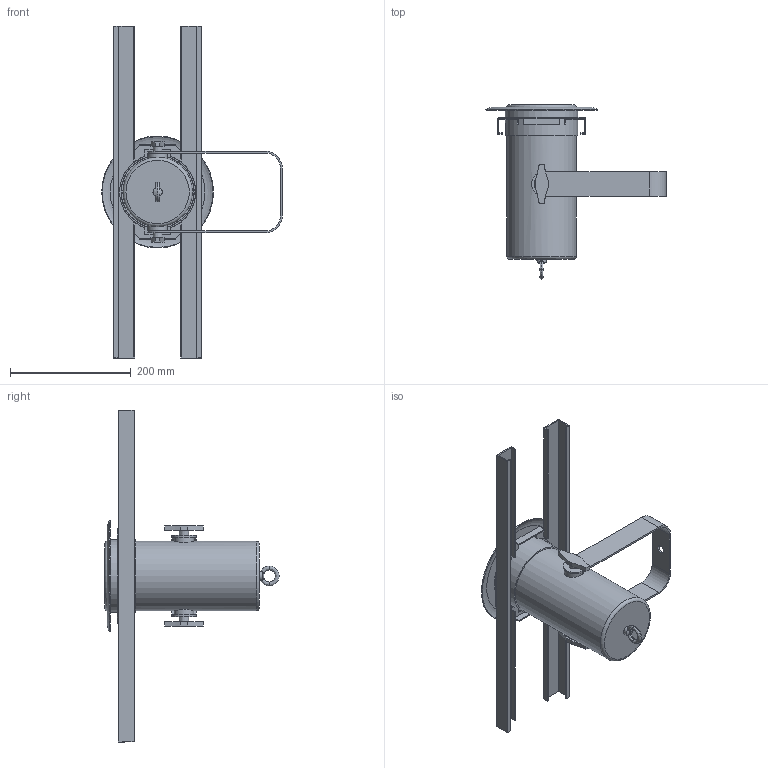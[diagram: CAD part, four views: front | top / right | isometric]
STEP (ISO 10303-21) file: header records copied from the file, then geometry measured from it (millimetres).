
FILE_DESCRIPTION(/* description */ (''),/* implementation_level */ '2;1');
FILE_NAME(/* name */ 'D:/dgooch/Documents/CADENG/PRO/Ovation H-55WW/90/3D/Ovation H-55WW_W_Install_Bracket_90.step',/* time_stamp */ '2019-11-13T10:18:26-05:00',/* author */ (''),/* organization */ (''),/* preprocessor_version */ 'ST-DEVELOPER v18',/* originating_system */ 'Autodesk Translation Framework v8.12.0.6',/* authorisation */ '');
FILE_SCHEMA (('AUTOMOTIVE_DESIGN { 1 0 10303 214 3 1 1 }'));
Length unit declared in the file: millimetre
Products named in the file (5): Ovation Mini Houselight; Bracket; Mian; Install_Bracket; Ring
Assembly tree (4 placements, depth 3):
  Ovation Mini Houselight
    Bracket
    Mian
      Install_Bracket
      Ring
Bounding box: 299.06 x 288.65 x 550 mm (x, y, z)
Volume: 2959832.3 mm3; surface area: 407897.2 mm2
Topology: 4 solids, 4 shells, 141 faces, 361 edges, 234 vertices
Faces by surface type: plane 100, cylinder 18, cone 12, bspline 6, torus 5
Full cylindrical faces by diameter (mm): 8.1 x2, 13 x1, 15.3 x1, 32.439 x2, 81 x1, 114.646 x1, 115 x1, 120 x1
Entity records: 6220 total; most frequent: CARTESIAN_POINT 2655, ORIENTED_EDGE 722, DIRECTION 702, EDGE_CURVE 361, LINE 244, VECTOR 244, VERTEX_POINT 234, AXIS2_PLACEMENT_3D 229
